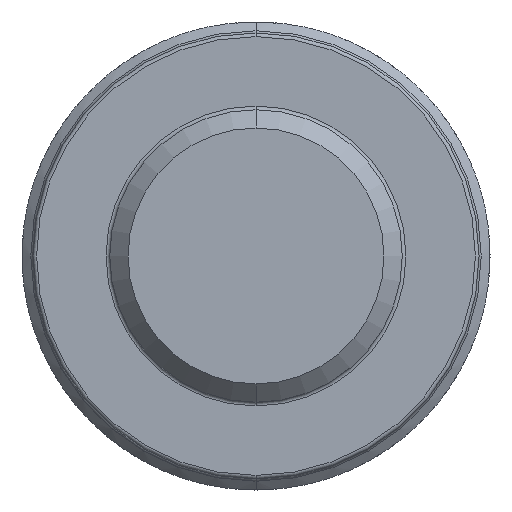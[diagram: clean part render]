
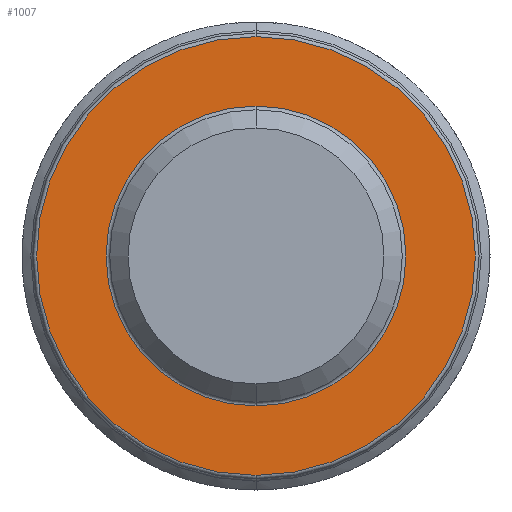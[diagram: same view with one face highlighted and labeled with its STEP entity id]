
A CAD part, front view. The second image highlights one B-rep face of the part: STEP entity #1007.
In plain terms, the highlighted planar face has unit normal (0, -1, 0).
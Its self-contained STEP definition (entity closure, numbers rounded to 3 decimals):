
#239 = AXIS2_PLACEMENT_3D ( 'NONE', #6316, #1017, #4506 ) ;
#420 = AXIS2_PLACEMENT_3D ( 'NONE', #2491, #6927, #5752 ) ;
#514 = DIRECTION ( 'NONE',  ( 0., 0., -1. ) ) ;
#539 = DIRECTION ( 'NONE',  ( 0., 0., -1. ) ) ;
#739 = DIRECTION ( 'NONE',  ( 0., 0., -1. ) ) ;
#1007 = ADVANCED_FACE ( 'NONE', ( #5706, #7056 ), #3175, .T. ) ;
#1017 = DIRECTION ( 'NONE',  ( 0., -1., 0. ) ) ;
#1655 = EDGE_CURVE ( 'NONE', #5410, #4595, #3808, .T. ) ;
#1878 = CARTESIAN_POINT ( 'NONE',  ( 0., -8., 6. ) ) ;
#2397 = CIRCLE ( 'NONE', #239, 6. ) ;
#2491 = CARTESIAN_POINT ( 'NONE',  ( 4., -8., 0. ) ) ;
#2961 = DIRECTION ( 'NONE',  ( 0., 1., 0. ) ) ;
#3026 = VERTEX_POINT ( 'NONE', #4770 ) ;
#3056 = CARTESIAN_POINT ( 'NONE',  ( 0., -8., -6. ) ) ;
#3100 = EDGE_CURVE ( 'NONE', #4595, #5410, #2397, .T. ) ;
#3106 = EDGE_CURVE ( 'NONE', #8197, #3026, #6582, .T. ) ;
#3175 = PLANE ( 'NONE',  #420 ) ;
#3259 = EDGE_LOOP ( 'NONE', ( #7480, #6133 ) ) ;
#3808 = CIRCLE ( 'NONE', #5287, 6. ) ;
#3910 = EDGE_CURVE ( 'NONE', #3026, #8197, #7670, .T. ) ;
#3920 = CARTESIAN_POINT ( 'NONE',  ( 0., -8., 0. ) ) ;
#4506 = DIRECTION ( 'NONE',  ( 0., 0., -1. ) ) ;
#4595 = VERTEX_POINT ( 'NONE', #1878 ) ;
#4770 = CARTESIAN_POINT ( 'NONE',  ( 0., -8., 4.1 ) ) ;
#5287 = AXIS2_PLACEMENT_3D ( 'NONE', #7560, #6296, #514 ) ;
#5410 = VERTEX_POINT ( 'NONE', #3056 ) ;
#5706 = FACE_BOUND ( 'NONE', #3259, .T. ) ;
#5752 = DIRECTION ( 'NONE',  ( 0., 0., -1. ) ) ;
#6133 = ORIENTED_EDGE ( 'NONE', *, *, #3910, .T. ) ;
#6285 = ORIENTED_EDGE ( 'NONE', *, *, #3100, .T. ) ;
#6296 = DIRECTION ( 'NONE',  ( 0., -1., 0. ) ) ;
#6316 = CARTESIAN_POINT ( 'NONE',  ( 0., -8., 0. ) ) ;
#6572 = DIRECTION ( 'NONE',  ( 0., 1., 0. ) ) ;
#6582 = CIRCLE ( 'NONE', #7120, 4.1 ) ;
#6700 = ORIENTED_EDGE ( 'NONE', *, *, #1655, .T. ) ;
#6927 = DIRECTION ( 'NONE',  ( 0., -1., 0. ) ) ;
#7056 = FACE_OUTER_BOUND ( 'NONE', #7849, .T. ) ;
#7120 = AXIS2_PLACEMENT_3D ( 'NONE', #8260, #2961, #539 ) ;
#7402 = AXIS2_PLACEMENT_3D ( 'NONE', #3920, #6572, #739 ) ;
#7446 = CARTESIAN_POINT ( 'NONE',  ( 0., -8., -4.1 ) ) ;
#7480 = ORIENTED_EDGE ( 'NONE', *, *, #3106, .T. ) ;
#7560 = CARTESIAN_POINT ( 'NONE',  ( 0., -8., 0. ) ) ;
#7670 = CIRCLE ( 'NONE', #7402, 4.1 ) ;
#7849 = EDGE_LOOP ( 'NONE', ( #6700, #6285 ) ) ;
#8197 = VERTEX_POINT ( 'NONE', #7446 ) ;
#8260 = CARTESIAN_POINT ( 'NONE',  ( 0., -8., 0. ) ) ;
